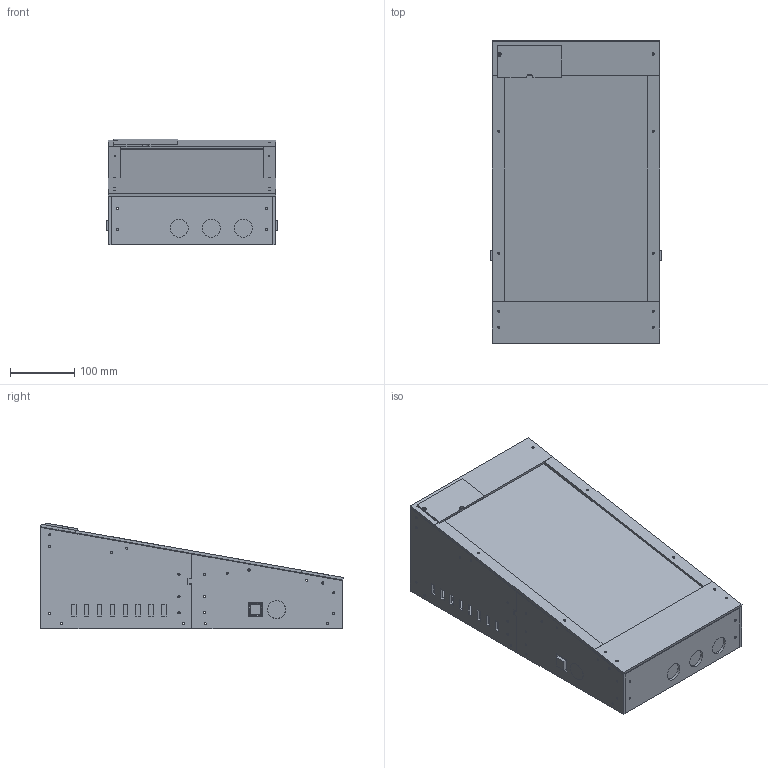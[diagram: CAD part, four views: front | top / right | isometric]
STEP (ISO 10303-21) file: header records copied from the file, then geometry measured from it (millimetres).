
FILE_DESCRIPTION(('Open CASCADE Model'),'2;1');
FILE_NAME('Open CASCADE Shape Model','2026-11-07T14:37:10',('Author'),( 'Open CASCADE'),'Open CASCADE STEP processor 7.8','Open CASCADE 7.8' ,'Unknown');
FILE_SCHEMA(('AUTOMOTIVE_DESIGN { 1 0 10303 214 1 1 1 1 }'));
Length unit declared in the file: millimetre
Products named in the file (67): Mini_VPin_Prototype_V1_10; left_front_wall; left_rear_wall; right_front_wall; right_rear_wall; front_button_panel; rear_vent_panel; corner_left_front_24; corner_left_front_56; corner_left_rear_24; corner_left_rear_128; corner_right_front_24; corner_right_front_56; corner_right_rear_24; corner_right_rear_128; splice_left; splice_right; floor_block_left_28; floor_block_left_218; floor_block_left_252; floor_block_left_442; floor_block_right_28; floor_block_right_218; floor_block_right_252; floor_block_right_442; bottom_front; bottom_rear; top_block_left_25; top_block_left_50; top_block_left_140; top_block_left_330; top_block_left_450; top_block_right_25; top_block_right_50; top_block_right_140; top_block_right_330; top_block_right_450; monitor_saddle_left_180; monitor_saddle_left_360; monitor_saddle_right_180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
Assembly tree (66 placements, depth 2):
  Mini_VPin_Prototype_V1_10
    left_front_wall
    left_rear_wall
    right_front_wall
    right_rear_wall
    front_button_panel
    rear_vent_panel
    corner_left_front_24
    corner_left_front_56
    corner_left_rear_24
    corner_left_rear_128
    corner_right_front_24
    corner_right_front_56
    corner_right_rear_24
    corner_right_rear_128
    splice_left
    splice_right
    floor_block_left_28
    floor_block_left_218
    floor_block_left_252
    floor_block_left_442
    floor_block_right_28
    floor_block_right_218
    floor_block_right_252
    floor_block_right_442
    bottom_front
    bottom_rear
    top_block_left_25
    top_block_left_50
    top_block_left_140
    top_block_left_330
    top_block_left_450
    top_block_right_25
    top_block_right_50
    top_block_right_140
    top_block_right_330
    top_block_right_450
    monitor_saddle_left_180
    monitor_saddle_left_360
    monitor_saddle_right_180
    monitor_saddle_right_360
    bezel_left_one_piece
    bezel_right_a1_a2
    front_cable_lid
    rear_control_deck
    control_hatch
    REFERENCE_monitor_12mm_envelope
    REFERENCE_PC_allowance_ports_face_front
    REFERENCE_0_front_button_110
    REFERENCE_1_front_button_160
    REFERENCE_2_front_button_210
    REFERENCE_3_left_flipper_barrel_D27.8
    REFERENCE_4_left_flipper_nut_D40_x5
    REFERENCE_5_left_flipper_body_and_wiring_40x40
    REFERENCE_6_left_assumed_MX_plate_stem_14.0
    REFERENCE_7_left_assumed_MX_body_clip_and_wiring_allowance
    REFERENCE_8_left_assumed_MX_upper_housing_16.4
    REFERENCE_9_right_flipper_barrel_D27.8
    REFERENCE_10_right_flipper_nut_D40_x5
    REFERENCE_11_right_flipper_body_and_wiring_40x40
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Bounding box: 267 x 470.69 x 164.59 mm (x, y, z)
Volume: 7303113.8 mm3; surface area: 1394022.9 mm2
Topology: 66 solids, 66 shells, 1091 faces, 2781 edges, 1854 vertices
Faces by surface type: plane 886, cylinder 187, extrusion 16, cone 2
Full cylindrical faces by diameter (mm): 3.4 x152, 4.5 x4, 6 x2, 6.4 x2, 27.8 x2, 28 x5, 40 x2
Entity records: 80909 total; most frequent: CARTESIAN_POINT 22661, DIRECTION 10257, VECTOR 6845, LINE 6829, ORIENTED_EDGE 5562, PCURVE 5562, DEFINITIONAL_REPRESENTATION 5562, EDGE_CURVE 2781
